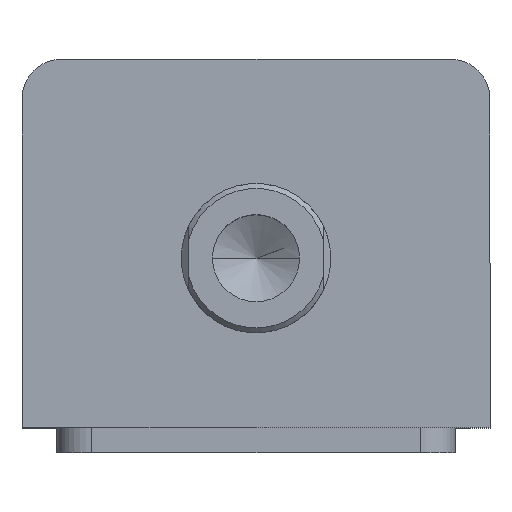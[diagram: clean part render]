
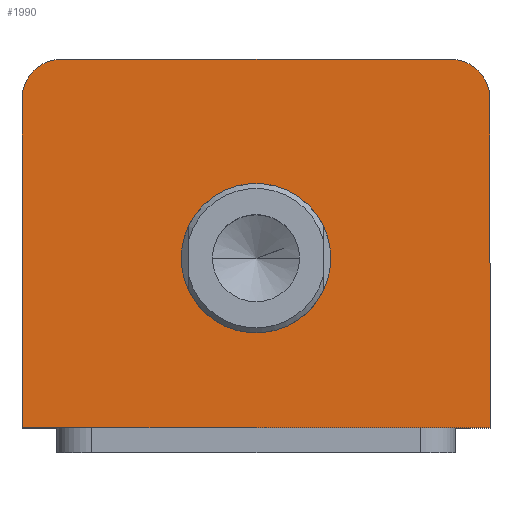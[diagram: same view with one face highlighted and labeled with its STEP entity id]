
A CAD part, top view. The second image highlights one B-rep face of the part: STEP entity #1990.
In plain terms, the highlighted planar face has unit normal (0, 0, 1).
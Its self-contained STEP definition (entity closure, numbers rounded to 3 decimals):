
#5 = LINE ( 'NONE', #902, #9 ) ;
#9 = VECTOR ( 'NONE', #903, 1000. ) ;
#52 = LINE ( 'NONE', #954, #55 ) ;
#55 = VECTOR ( 'NONE', #955, 1000. ) ;
#68 = CIRCLE ( 'NONE', #464, 8. ) ;
#82 = CIRCLE ( 'NONE', #472, 8. ) ;
#348 = AXIS2_PLACEMENT_3D ( 'NONE', #2052, #2051, #2050 ) ;
#372 = AXIS2_PLACEMENT_3D ( 'NONE', #2810, #2809, #2808 ) ;
#402 = AXIS2_PLACEMENT_3D ( 'NONE', #2270, #2234, #2297 ) ;
#464 = AXIS2_PLACEMENT_3D ( 'NONE', #986, #987, #988 ) ;
#472 = AXIS2_PLACEMENT_3D ( 'NONE', #1014, #1015, #1016 ) ;
#748 = CARTESIAN_POINT ( 'NONE',  ( -39., 37., 100. ) ) ;
#765 = CARTESIAN_POINT ( 'NONE',  ( -47., -37., 100. ) ) ;
#776 = CARTESIAN_POINT ( 'NONE',  ( 39., 37., 100. ) ) ;
#798 = CARTESIAN_POINT ( 'NONE',  ( 47., -37., 100. ) ) ;
#802 = CARTESIAN_POINT ( 'NONE',  ( 15., -3., 100. ) ) ;
#809 = CARTESIAN_POINT ( 'NONE',  ( -15., -3., 100. ) ) ;
#902 = CARTESIAN_POINT ( 'NONE',  ( 47., 37., 100. ) ) ;
#903 = DIRECTION ( 'NONE',  ( 0., 1., 0. ) ) ;
#954 = CARTESIAN_POINT ( 'NONE',  ( -47., 37., 100. ) ) ;
#955 = DIRECTION ( 'NONE',  ( -1., 0., 0. ) ) ;
#986 = CARTESIAN_POINT ( 'NONE',  ( 39., 29., 100. ) ) ;
#987 = DIRECTION ( 'NONE',  ( 0., 0., 1. ) ) ;
#988 = DIRECTION ( 'NONE',  ( 1., 0., 0. ) ) ;
#1014 = CARTESIAN_POINT ( 'NONE',  ( -39., 29., 100. ) ) ;
#1015 = DIRECTION ( 'NONE',  ( 0., 0., 1. ) ) ;
#1016 = DIRECTION ( 'NONE',  ( 1., 0., 0. ) ) ;
#1206 = CARTESIAN_POINT ( 'NONE',  ( 47., 29., 100. ) ) ;
#1263 = EDGE_CURVE ( 'NONE', #2489, #2522, #1645, .T. ) ;
#1271 = EDGE_CURVE ( 'NONE', #2419, #2489, #2210, .T. ) ;
#1280 = EDGE_CURVE ( 'NONE', #2526, #2561, #2193, .T. ) ;
#1329 = EDGE_CURVE ( 'NONE', #2561, #2526, #2161, .T. ) ;
#1367 = EDGE_LOOP ( 'NONE', ( #1684, #1683, #1686, #1833, #1711, #1664 ) ) ;
#1394 = EDGE_LOOP ( 'NONE', ( #1816, #1682 ) ) ;
#1642 = VECTOR ( 'NONE', #2106, 1000. ) ;
#1645 = LINE ( 'NONE', #2108, #1642 ) ;
#1664 = ORIENTED_EDGE ( 'NONE', *, *, #2992, .T. ) ;
#1682 = ORIENTED_EDGE ( 'NONE', *, *, #1329, .F. ) ;
#1683 = ORIENTED_EDGE ( 'NONE', *, *, #3002, .T. ) ;
#1684 = ORIENTED_EDGE ( 'NONE', *, *, #2979, .T. ) ;
#1686 = ORIENTED_EDGE ( 'NONE', *, *, #1271, .T. ) ;
#1711 = ORIENTED_EDGE ( 'NONE', *, *, #2955, .T. ) ;
#1816 = ORIENTED_EDGE ( 'NONE', *, *, #1280, .F. ) ;
#1833 = ORIENTED_EDGE ( 'NONE', *, *, #1263, .T. ) ;
#1914 = FACE_OUTER_BOUND ( 'NONE', #1367, .T. ) ;
#1917 = FACE_BOUND ( 'NONE', #1394, .T. ) ;
#1990 = ADVANCED_FACE ( 'NONE', ( #1917, #1914 ), #2246, .T. ) ;
#2050 = DIRECTION ( 'NONE',  ( 1., 0., 0. ) ) ;
#2051 = DIRECTION ( 'NONE',  ( 0., 0., 1. ) ) ;
#2052 = CARTESIAN_POINT ( 'NONE',  ( 0., -3., 100. ) ) ;
#2078 = DIRECTION ( 'NONE',  ( 0., -1., 0. ) ) ;
#2079 = CARTESIAN_POINT ( 'NONE',  ( -47., 37., 100. ) ) ;
#2106 = DIRECTION ( 'NONE',  ( 1., 0., 0. ) ) ;
#2108 = CARTESIAN_POINT ( 'NONE',  ( -47., -37., 100. ) ) ;
#2161 = CIRCLE ( 'NONE', #372, 15. ) ;
#2193 = CIRCLE ( 'NONE', #348, 15. ) ;
#2207 = VECTOR ( 'NONE', #2078, 1000. ) ;
#2210 = LINE ( 'NONE', #2079, #2207 ) ;
#2234 = DIRECTION ( 'NONE',  ( 0., 0., 1. ) ) ;
#2246 = PLANE ( 'NONE',  #402 ) ;
#2270 = CARTESIAN_POINT ( 'NONE',  ( 0., 0., 100. ) ) ;
#2297 = DIRECTION ( 'NONE',  ( 1., 0., 0. ) ) ;
#2416 = VERTEX_POINT ( 'NONE', #1206 ) ;
#2419 = VERTEX_POINT ( 'NONE', #2924 ) ;
#2426 = VERTEX_POINT ( 'NONE', #748 ) ;
#2489 = VERTEX_POINT ( 'NONE', #765 ) ;
#2500 = VERTEX_POINT ( 'NONE', #776 ) ;
#2522 = VERTEX_POINT ( 'NONE', #798 ) ;
#2526 = VERTEX_POINT ( 'NONE', #802 ) ;
#2561 = VERTEX_POINT ( 'NONE', #809 ) ;
#2808 = DIRECTION ( 'NONE',  ( 1., 0., 0. ) ) ;
#2809 = DIRECTION ( 'NONE',  ( 0., 0., 1. ) ) ;
#2810 = CARTESIAN_POINT ( 'NONE',  ( 0., -3., 100. ) ) ;
#2924 = CARTESIAN_POINT ( 'NONE',  ( -47., 29., 100. ) ) ;
#2955 = EDGE_CURVE ( 'NONE', #2522, #2416, #5, .T. ) ;
#2979 = EDGE_CURVE ( 'NONE', #2500, #2426, #52, .T. ) ;
#2992 = EDGE_CURVE ( 'NONE', #2416, #2500, #68, .T. ) ;
#3002 = EDGE_CURVE ( 'NONE', #2426, #2419, #82, .T. ) ;
